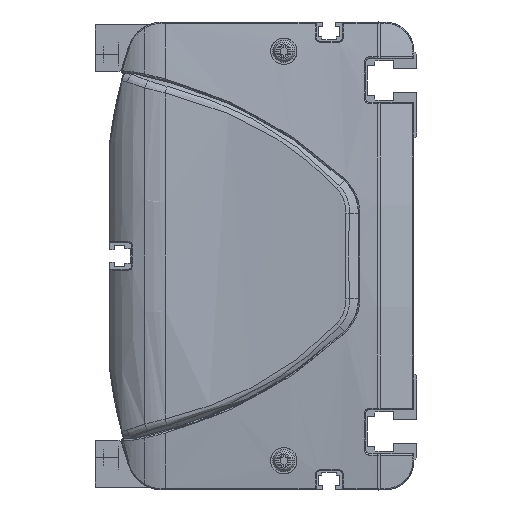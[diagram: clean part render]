
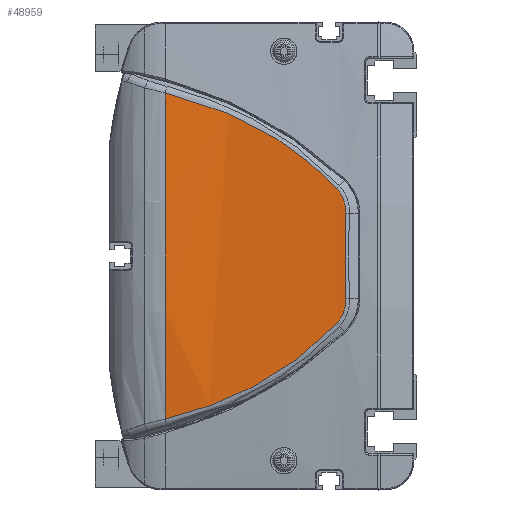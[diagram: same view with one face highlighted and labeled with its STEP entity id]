
A CAD part, left-side view. The second image highlights one B-rep face of the part: STEP entity #48959.
In plain terms, the highlighted cylindrical face has radius 600 mm (diameter 1200 mm), a partial arc.
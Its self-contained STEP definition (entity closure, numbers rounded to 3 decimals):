
#43978=CARTESIAN_POINT('',(-12.406,86.,
55.736));
#43979=CARTESIAN_POINT('',(-12.529,80.495,
54.41));
#43980=CARTESIAN_POINT('',(-12.828,69.636,
51.114));
#43981=CARTESIAN_POINT('',(-13.389,54.079,
44.179));
#43982=CARTESIAN_POINT('',(-14.01,39.709,
34.979));
#43983=CARTESIAN_POINT('',(-14.395,31.353,
27.243));
#43984=CARTESIAN_POINT('',(-14.555,27.451,
23.113));
#43986=CARTESIAN_POINT('',(-14.555,27.451,
23.113));
#43987=CARTESIAN_POINT('',(-14.641,25.336,
20.875));
#43988=CARTESIAN_POINT('',(-14.745,24.202,
17.745));
#43989=CARTESIAN_POINT('',(-14.821,24.351,
14.67));
#43991=CARTESIAN_POINT('',(-14.821,24.351,
14.67));
#43992=CARTESIAN_POINT('',(-14.9,24.51,
11.413));
#43993=CARTESIAN_POINT('',(-15.007,24.721,
4.895));
#43994=CARTESIAN_POINT('',(-15.007,24.721,
-4.895));
#43995=CARTESIAN_POINT('',(-14.9,24.51,
-11.413));
#43996=CARTESIAN_POINT('',(-14.821,24.351,
-14.67));
#43998=CARTESIAN_POINT('',(-14.821,24.351,
-14.67));
#43999=CARTESIAN_POINT('',(-14.745,24.202,
-17.745));
#44000=CARTESIAN_POINT('',(-14.641,25.337,
-20.876));
#44001=CARTESIAN_POINT('',(-14.555,27.451,
-23.113));
#44003=CARTESIAN_POINT('',(-14.555,27.451,
-23.113));
#44004=CARTESIAN_POINT('',(-14.395,31.353,
-27.243));
#44005=CARTESIAN_POINT('',(-14.01,39.709,
-34.979));
#44006=CARTESIAN_POINT('',(-13.389,54.079,
-44.179));
#44007=CARTESIAN_POINT('',(-12.828,69.636,
-51.114));
#44008=CARTESIAN_POINT('',(-12.529,80.495,
-54.41));
#44009=CARTESIAN_POINT('',(-12.406,86.,
-55.736));
#44011=CARTESIAN_POINT('',(585.,86.,0.));
#44012=DIRECTION('',(0.,1.,0.));
#44013=DIRECTION('',(-0.996,0.,-0.093));
#44014=AXIS2_PLACEMENT_3D('',#44011,#44012,#44013);
#44027=CARTESIAN_POINT('',(-12.406,86.,
55.736));
#44535=VERTEX_POINT('',#44027);
#44536=CARTESIAN_POINT('',(-12.406,86.,
-55.736));
#44537=VERTEX_POINT('',#44536);
#44589=VERTEX_POINT('',#43984);
#44590=VERTEX_POINT('',#43989);
#44591=VERTEX_POINT('',#43996);
#44592=VERTEX_POINT('',#44001);
#48941=CARTESIAN_POINT('',(585.,87.45,0.));
#48942=DIRECTION('',(0.,-1.,0.));
#48943=DIRECTION('',(0.,0.,-1.));
#48944=AXIS2_PLACEMENT_3D('',#48941,#48942,#48943);
#48945=CYLINDRICAL_SURFACE('',#48944,600.);
#48947=ORIENTED_EDGE('',*,*,#48946,.T.);
#48949=ORIENTED_EDGE('',*,*,#48948,.T.);
#48950=ORIENTED_EDGE('',*,*,#48931,.T.);
#48952=ORIENTED_EDGE('',*,*,#48951,.T.);
#48954=ORIENTED_EDGE('',*,*,#48953,.T.);
#48956=ORIENTED_EDGE('',*,*,#48955,.T.);
#48957=EDGE_LOOP('',(#48947,#48949,#48950,#48952,#48954,#48956));
#48958=FACE_OUTER_BOUND('',#48957,.F.);
#48959=ADVANCED_FACE('',(#48958),#48945,.T.);
#43985=B_SPLINE_CURVE_WITH_KNOTS('',3,(#43978,#43979,#43980,#43981,#43982,
#43983,#43984),.UNSPECIFIED.,.F.,.F.,(4,1,1,1,4),(0.,0.25,0.5,0.75,
1.),.UNSPECIFIED.);
#43990=B_SPLINE_CURVE_WITH_KNOTS('',3,(#43986,#43987,#43988,#43989),
.UNSPECIFIED.,.F.,.F.,(4,4),(0.,1.),.UNSPECIFIED.);
#43997=B_SPLINE_CURVE_WITH_KNOTS('',3,(#43991,#43992,#43993,#43994,#43995,
#43996),.UNSPECIFIED.,.F.,.F.,(4,1,1,4),(0.,0.333,
0.667,1.),.UNSPECIFIED.);
#44002=B_SPLINE_CURVE_WITH_KNOTS('',3,(#43998,#43999,#44000,#44001),
.UNSPECIFIED.,.F.,.F.,(4,4),(0.,1.),.UNSPECIFIED.);
#44010=B_SPLINE_CURVE_WITH_KNOTS('',3,(#44003,#44004,#44005,#44006,#44007,
#44008,#44009),.UNSPECIFIED.,.F.,.F.,(4,1,1,1,4),(0.,0.25,0.5,0.75,
1.),.UNSPECIFIED.);
#44015=CIRCLE('',#44014,600.);
#48931=EDGE_CURVE('',#44590,#44591,#43997,.T.);
#48946=EDGE_CURVE('',#44535,#44589,#43985,.T.);
#48948=EDGE_CURVE('',#44589,#44590,#43990,.T.);
#48951=EDGE_CURVE('',#44591,#44592,#44002,.T.);
#48953=EDGE_CURVE('',#44592,#44537,#44010,.T.);
#48955=EDGE_CURVE('',#44537,#44535,#44015,.T.);
